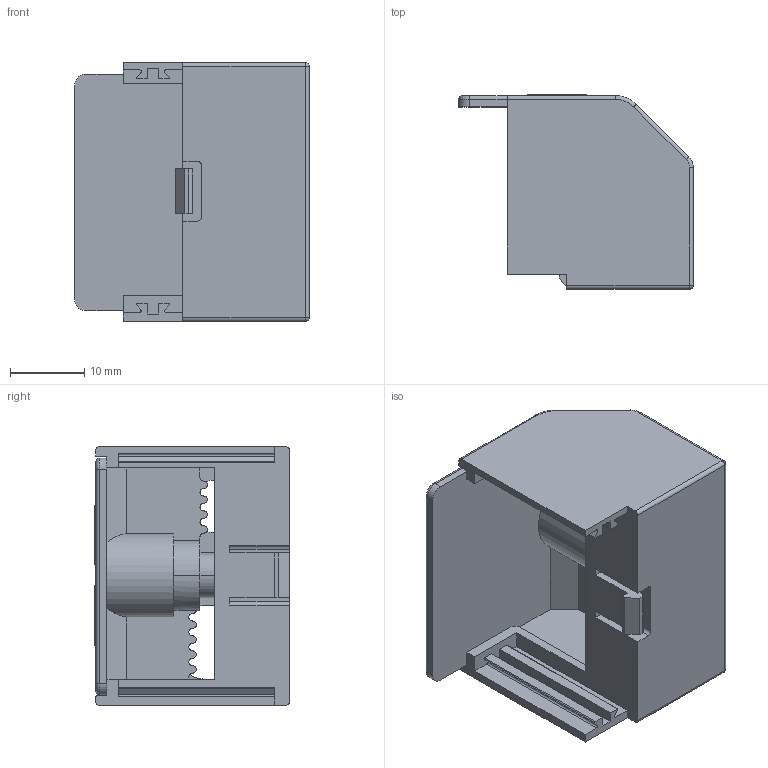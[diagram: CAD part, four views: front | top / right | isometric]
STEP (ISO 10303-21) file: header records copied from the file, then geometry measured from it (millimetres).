
FILE_DESCRIPTION (( 'STEP AP214' ), '1' );
FILE_NAME ('Assem16.STEP', '2020-12-15T22:01:12', ( '' ), ( '' ), 'SwSTEP 2.0', 'SolidWorks 2021', '' );
FILE_SCHEMA (( 'AUTOMOTIVE_DESIGN' ));
Length unit declared in the file: millimetre
Products named in the file (4): Assem16; SR-BOT-02.stp; 3D_LC28MINI-CC-500-700.stp; SR-TOP-02.stp
Assembly tree (3 placements, depth 3):
  Assem16
    3D_LC28MINI-CC-500-700.stp
      SR-BOT-02.stp
      SR-TOP-02.stp
Bounding box: 31.5 x 26.15 x 34.8 mm (x, y, z)
Volume: 6808.1 mm3; surface area: 10605.5 mm2
Topology: 2 solids, 2 shells, 356 faces, 982 edges, 632 vertices
Faces by surface type: plane 195, cylinder 117, torus 15, sphere 14, bspline 9, cone 6
Entity records: 11704 total; most frequent: CARTESIAN_POINT 2499, ORIENTED_EDGE 1912, DIRECTION 1910, EDGE_CURVE 956, VECTOR 650, LINE 650, AXIS2_PLACEMENT_3D 630, VERTEX_POINT 620
